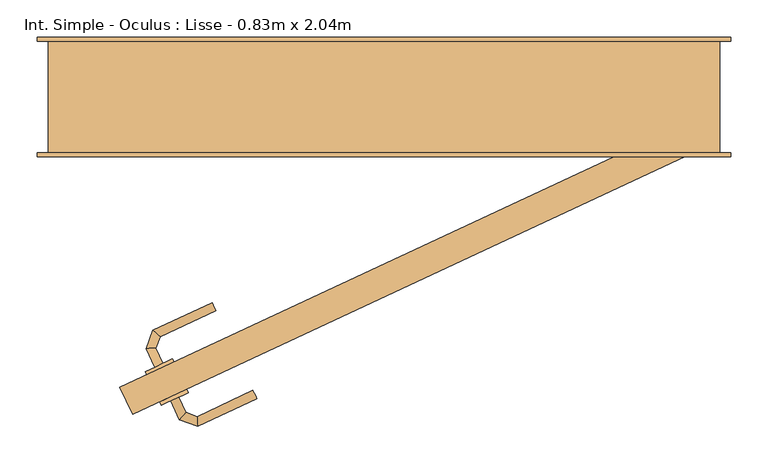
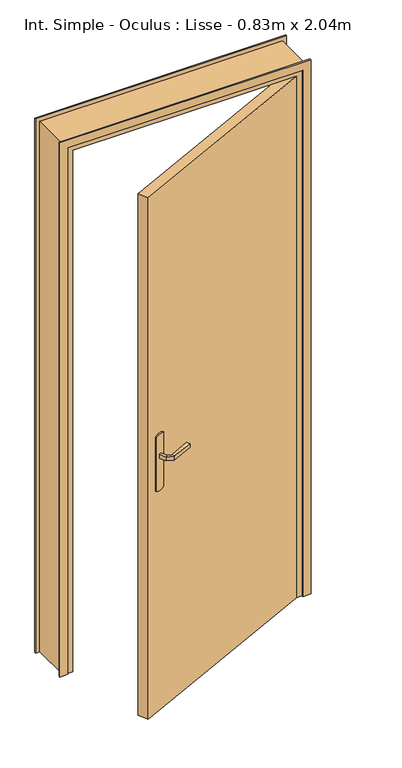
"""IFC4 building model written with IfcOpenShell, lengths in millimetres: door geometry, Int. Simple - Oculus : Lisse - 0.83m x 2.04m."""

from ifc_helpers import new_model, si_unit, point, frame, frame_2d, origin, origin_with_axes, place, context, project, spatial, polyline, circle_curve, ellipse_curve, trimmed, segment, composite_curve, outline, extrude, faceted_brep, source, transform, mapped, element, save
from ifc_brep_helpers import plane_surface, cylinder_surface, advanced_brep


def int_simple_oculus_lisse_0_83m_x_2_04m_3713ebb9(model_context):
    return source(origin(), model_context, "Body", "SolidModel", [
        extrude(outline(composite_curve([segment(trimmed(circle_curve(frame_2d((0.0, -40.0)), 40.0), [point((-34.6410162, -60.0000001))], [point((-34.6410162, -20.0))], False, "CARTESIAN"), True, "CONTINUOUS"), segment(polyline([(-34.6410162, -20.0), (175.3589838, -20.0)]), True, "CONTINUOUS"), segment(trimmed(circle_curve(frame_2d((140.7179676, -40.0)), 40.0), [point((175.3589838, -20.0))], [point((175.3589838, -60.0000001))], False, "CARTESIAN"), True, "CONTINUOUS"), segment(polyline([(175.3589838, -60.0000001), (-34.6410162, -60.0000001)]), True, "CONTINUOUS")], self_intersect=False)), frame((-279.4915932, -388.04287, 904.6410162), z_axis=(-0.42261826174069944, 0.90630778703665, 0.0), x_axis=(0.0, 0.0, 1.0)), (0.0, 0.0, 1.0), 5.0),
        extrude(outline(composite_curve([segment(trimmed(circle_curve(frame_2d((0.0, -40.0)), 40.0), [point((34.6410162, -19.9999999))], [point((34.6410162, -60.0))], False, "CARTESIAN"), True, "CONTINUOUS"), segment(polyline([(34.6410162, -60.0), (-175.3589838, -60.0)]), True, "CONTINUOUS"), segment(trimmed(circle_curve(frame_2d((-140.7179676, -40.0)), 40.0), [point((-175.3589838, -60.0))], [point((-175.3589838, -19.9999999))], False, "CARTESIAN"), True, "CONTINUOUS"), segment(polyline([(-175.3589838, -19.9999999), (34.6410162, -19.9999999)]), True, "CONTINUOUS")], self_intersect=False)), frame((-298.509415, -347.2590196, 1045.3589838), z_axis=(-0.42261826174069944, 0.90630778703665, 0.0), x_axis=(0.0, 0.0, 1.0)), (0.0, 0.0, 1.0), 5.0),
        advanced_brep(
        [(-321.1817514, -407.48331, 1007.0), (-310.306058, -402.4118909, 1007.0), (-310.306058, -402.4118909, 993.0), (-321.1817514, -407.48331, 993.0), (-309.4959547, -432.543582, 1007.0), (-300.7209119, -422.9673031, 1007.0), (-300.7209119, -422.9673031, 993.0), (-309.4959547, -432.543582, 993.0), (-285.0740017, -441.432446, 1007.0), (-285.6405611, -428.4561019, 1007.0), (-285.6405611, -428.4561019, 993.0), (-285.0740017, -441.432446, 993.0), (-205.6438906, -404.3935769, 1007.0), (-205.6438906, -404.3935769, 993.0), (-210.7153098, -393.5178834, 993.0), (-210.7153098, -393.5178834, 1007.0)],
        [
            (0, 1, circle_curve(frame((-315.7439047, -404.9476005, 986.9542278), z_axis=(-0.42261826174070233, 0.9063077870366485, 0.0), x_axis=(0.9063077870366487, 0.4226182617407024, 0.0)), 20.9244589)),
            (1, 2),
            (2, 3, circle_curve(frame((-315.7439047, -404.9476005, 1013.0457722), z_axis=(-0.42261826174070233, 0.9063077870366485, 0.0), x_axis=(0.9063077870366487, 0.4226182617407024, 0.0)), 20.9244589)),
            (3, 0),
            (0, 4),
            (4, 5, ellipse_curve(frame((-305.1084333, -427.7554426, 986.9542278), z_axis=(-0.7372773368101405, 0.6755902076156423, 0.0), x_axis=(0.6755902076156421, 0.7372773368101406, 0.0)), 22.6484711, 20.9244589)),
            (5, 1),
            (5, 6),
            (6, 2),
            (6, 7, ellipse_curve(frame((-305.1084333, -427.7554426, 1013.0457722), z_axis=(-0.7372773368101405, 0.6755902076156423, 0.0), x_axis=(0.6755902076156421, 0.7372773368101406, 0.0)), 22.6484711, 20.9244589)),
            (7, 3),
            (7, 4),
            (4, 8),
            (8, 9, ellipse_curve(frame((-285.3572814, -434.9442739, 986.9542278), z_axis=(-0.9990482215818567, -0.043619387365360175, 0.0), x_axis=(-0.043619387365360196, 0.9990482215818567, 0.0)), 22.6484711, 20.9244589)),
            (9, 5),
            (9, 10),
            (10, 6),
            (10, 11, ellipse_curve(frame((-285.3572814, -434.9442739, 1013.0457722), z_axis=(-0.9990482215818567, -0.043619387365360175, 0.0), x_axis=(-0.043619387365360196, 0.9990482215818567, 0.0)), 22.6484711, 20.9244589)),
            (11, 7),
            (11, 8),
            (12, 13),
            (13, 14, circle_curve(frame((-208.1796002, -398.9557302, 1013.0457722), z_axis=(0.9063077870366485, 0.4226182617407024, 0.0), x_axis=(-0.4226182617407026, 0.9063077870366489, 0.0)), 20.9244589)),
            (14, 15),
            (15, 12, circle_curve(frame((-208.1796002, -398.9557302, 986.9542278), z_axis=(0.9063077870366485, 0.4226182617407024, 0.0), x_axis=(-0.4226182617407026, 0.9063077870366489, 0.0)), 20.9244589)),
            (8, 12),
            (15, 9),
            (14, 10),
            (13, 11),
        ],
        [
            plane_surface(frame((-324.0996496, -408.8439483, 1000.0), z_axis=(-0.4226182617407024, 0.9063077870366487, 0.0), x_axis=(0.0, 0.0, -1.0))),
            cylinder_surface(frame((-315.7439047, -404.9476005, 986.9542278), z_axis=(-0.4226182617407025, 0.9063077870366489, 0.0), x_axis=(0.9063077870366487, 0.4226182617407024, 0.0)), 20.9244589),
            plane_surface(frame((-310.306058, -402.4118909, 1007.0), z_axis=(0.9063077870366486, 0.4226182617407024, 0.0), x_axis=(0.4226182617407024, -0.9063077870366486, 0.0))),
            cylinder_surface(frame((-315.7439047, -404.9476005, 1013.0457722), z_axis=(-0.4226182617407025, 0.9063077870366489, 0.0), x_axis=(0.9063077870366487, 0.4226182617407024, 0.0)), 20.9244589),
            plane_surface(frame((-321.1817514, -407.48331, 993.0), z_axis=(-0.9063077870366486, -0.4226182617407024, 0.0), x_axis=(0.4226182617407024, -0.9063077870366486, 0.0))),
            cylinder_surface(frame((-305.1084333, -427.7554426, 986.9542278), z_axis=(-0.939692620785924, 0.3420201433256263, 0.0), x_axis=(0.34202014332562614, 0.939692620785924, 0.0)), 20.9244589),
            plane_surface(frame((-300.7209119, -422.9673031, 1007.0), z_axis=(0.3420201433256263, 0.939692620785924, 0.0), x_axis=(0.939692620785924, -0.3420201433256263, 0.0))),
            cylinder_surface(frame((-305.1084333, -427.7554426, 1013.0457722), z_axis=(-0.939692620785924, 0.3420201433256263, 0.0), x_axis=(0.34202014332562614, 0.939692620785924, 0.0)), 20.9244589),
            plane_surface(frame((-309.4959547, -432.543582, 993.0), z_axis=(-0.3420201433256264, -0.9396926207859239, 0.0), x_axis=(0.9396926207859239, -0.3420201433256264, 0.0))),
            plane_surface(frame((-208.1796002, -398.9557302, 990.7804555), z_axis=(0.9063077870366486, 0.4226182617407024, 0.0), x_axis=(-0.4226182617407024, 0.9063077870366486, 0.0))),
            cylinder_surface(frame((-285.3572814, -434.9442739, 986.9542278), z_axis=(-0.9063077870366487, -0.4226182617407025, 0.0), x_axis=(-0.4226182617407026, 0.9063077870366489, 0.0)), 20.9244589),
            plane_surface(frame((-285.6405611, -428.4561019, 1007.0), z_axis=(-0.4226182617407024, 0.9063077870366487, 0.0), x_axis=(0.9063077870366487, 0.4226182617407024, 0.0))),
            cylinder_surface(frame((-285.3572814, -434.9442739, 1013.0457722), z_axis=(-0.9063077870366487, -0.4226182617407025, 0.0), x_axis=(-0.4226182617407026, 0.9063077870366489, 0.0)), 20.9244589),
            plane_surface(frame((-285.0740017, -441.432446, 993.0), z_axis=(0.4226182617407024, -0.9063077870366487, 0.0), x_axis=(0.9063077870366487, 0.4226182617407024, 0.0))),
        ],
        [
            (0, [[1, 2, 3, 4]]),
            (1, [[-1, 5, 6, 7]]),
            (2, [[-2, -7, 8, 9]]),
            (3, [[-3, -9, 10, 11]]),
            (4, [[-4, -11, 12, -5]]),
            (5, [[-6, 13, 14, 15]]),
            (6, [[-8, -15, 16, 17]]),
            (7, [[-10, -17, 18, 19]]),
            (8, [[-12, -19, 20, -13]]),
            (9, [[21, 22, 23, 24]]),
            (10, [[-14, 25, -24, 26]]),
            (11, [[-16, -26, -23, 27]]),
            (12, [[-18, -27, -22, 28]]),
            (13, [[-20, -28, -21, -25]]),
        ],
    ),
        advanced_brep(
        [(-331.4369711, -357.0965016, 993.0), (-331.4369711, -357.0965016, 1007.0), (-342.3126645, -362.1679207, 1007.0), (-342.3126645, -362.1679207, 993.0), (-340.9396291, -336.7179856, 993.0), (-340.9396291, -336.7179856, 1007.0), (-353.9159732, -337.284545, 1007.0), (-353.9159732, -337.284545, 993.0), (-335.3843188, -321.454896, 993.0), (-335.3843188, -321.454896, 1007.0), (-344.9605977, -312.6798532, 1007.0), (-344.9605977, -312.6798532, 993.0), (-260.5590927, -286.5633201, 993.0), (-265.6305118, -275.6876266, 993.0), (-265.6305118, -275.6876266, 1007.0), (-260.5590927, -286.5633201, 1007.0)],
        [
            (0, 1),
            (1, 2, circle_curve(frame((-336.8748178, -359.6322111, 986.9542278), z_axis=(0.42261826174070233, -0.9063077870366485, 0.0), x_axis=(-0.9063077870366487, -0.4226182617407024, 0.0)), 20.9244589)),
            (2, 3),
            (3, 0, circle_curve(frame((-336.8748178, -359.6322111, 1013.0457722), z_axis=(0.42261826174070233, -0.9063077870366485, 0.0), x_axis=(-0.9063077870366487, -0.4226182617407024, 0.0)), 20.9244589)),
            (0, 4),
            (4, 5),
            (5, 1),
            (5, 6, ellipse_curve(frame((-347.4278011, -337.0012653, 986.9542278), z_axis=(0.04361938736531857, -0.9990482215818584, 0.0), x_axis=(0.9990482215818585, 0.04361938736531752, 0.0)), 22.6484711, 20.9244589)),
            (6, 2),
            (6, 7),
            (7, 3),
            (7, 4, ellipse_curve(frame((-347.4278011, -337.0012653, 1013.0457722), z_axis=(0.04361938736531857, -0.9990482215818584, 0.0), x_axis=(0.9990482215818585, 0.04361938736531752, 0.0)), 22.6484711, 20.9244589)),
            (4, 8),
            (8, 9),
            (9, 5),
            (9, 10, ellipse_curve(frame((-340.1724583, -317.0673746, 986.9542278), z_axis=(-0.6755902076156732, -0.7372773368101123, 0.0), x_axis=(0.7372773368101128, -0.6755902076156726, 0.0)), 22.6484711, 20.9244589)),
            (10, 6),
            (10, 11),
            (11, 7),
            (11, 8, ellipse_curve(frame((-340.1724583, -317.0673746, 1013.0457722), z_axis=(-0.6755902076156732, -0.7372773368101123, 0.0), x_axis=(0.7372773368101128, -0.6755902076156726, 0.0)), 22.6484711, 20.9244589)),
            (12, 13, circle_curve(frame((-263.0948023, -281.1254733, 1013.0457722), z_axis=(0.9063077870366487, 0.4226182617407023, 0.0), x_axis=(-0.4226182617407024, 0.9063077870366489, 0.0)), 20.9244589)),
            (13, 14),
            (14, 15, circle_curve(frame((-263.0948023, -281.1254733, 986.9542278), z_axis=(0.9063077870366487, 0.4226182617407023, 0.0), x_axis=(-0.4226182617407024, 0.9063077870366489, 0.0)), 20.9244589)),
            (15, 12),
            (8, 12),
            (15, 9),
            (14, 10),
            (13, 11),
        ],
        [
            plane_surface(frame((-345.2305627, -363.528559, 1000.0), z_axis=(0.4226182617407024, -0.9063077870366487, 0.0), x_axis=(0.0, 0.0, 1.0))),
            plane_surface(frame((-331.4369711, -357.0965016, 993.0), z_axis=(0.9063077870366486, 0.4226182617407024, 0.0), x_axis=(-0.4226182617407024, 0.9063077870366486, 0.0))),
            cylinder_surface(frame((-336.8748178, -359.6322111, 986.9542278), z_axis=(0.4226182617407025, -0.9063077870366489, 0.0), x_axis=(-0.9063077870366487, -0.4226182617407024, 0.0)), 20.9244589),
            plane_surface(frame((-342.3126645, -362.1679207, 1007.0), z_axis=(-0.9063077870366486, -0.4226182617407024, 0.0), x_axis=(-0.4226182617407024, 0.9063077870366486, 0.0))),
            cylinder_surface(frame((-336.8748178, -359.6322111, 1013.0457722), z_axis=(0.4226182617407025, -0.9063077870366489, 0.0), x_axis=(-0.9063077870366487, -0.4226182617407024, 0.0)), 20.9244589),
            plane_surface(frame((-340.9396291, -336.7179856, 993.0), z_axis=(0.9396926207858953, -0.3420201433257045, 0.0), x_axis=(0.3420201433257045, 0.9396926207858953, 0.0))),
            cylinder_surface(frame((-347.4278011, -337.0012653, 986.9542278), z_axis=(-0.3420201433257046, -0.9396926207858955, 0.0), x_axis=(-0.9396926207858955, 0.34202014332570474, 0.0)), 20.9244589),
            plane_surface(frame((-353.9159732, -337.284545, 1007.0), z_axis=(-0.9396926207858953, 0.3420201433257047, 0.0), x_axis=(0.3420201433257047, 0.9396926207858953, 0.0))),
            cylinder_surface(frame((-347.4278011, -337.0012653, 1013.0457722), z_axis=(-0.3420201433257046, -0.9396926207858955, 0.0), x_axis=(-0.9396926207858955, 0.34202014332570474, 0.0)), 20.9244589),
            plane_surface(frame((-263.0948023, -281.1254733, 990.7804555), z_axis=(0.9063077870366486, 0.4226182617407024, 0.0), x_axis=(-0.4226182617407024, 0.9063077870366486, 0.0))),
            plane_surface(frame((-335.3843188, -321.454896, 993.0), z_axis=(0.4226182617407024, -0.9063077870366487, 0.0), x_axis=(0.9063077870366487, 0.4226182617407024, 0.0))),
            cylinder_surface(frame((-340.1724583, -317.0673746, 986.9542278), z_axis=(-0.9063077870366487, -0.4226182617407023, 0.0), x_axis=(-0.4226182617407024, 0.9063077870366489, 0.0)), 20.9244589),
            plane_surface(frame((-344.9605977, -312.6798532, 1007.0), z_axis=(-0.4226182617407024, 0.9063077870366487, 0.0), x_axis=(0.9063077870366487, 0.4226182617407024, 0.0))),
            cylinder_surface(frame((-340.1724583, -317.0673746, 1013.0457722), z_axis=(-0.9063077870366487, -0.4226182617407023, 0.0), x_axis=(-0.4226182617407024, 0.9063077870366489, 0.0)), 20.9244589),
        ],
        [
            (0, [[1, 2, 3, 4]]),
            (1, [[-1, 5, 6, 7]]),
            (2, [[-2, -7, 8, 9]]),
            (3, [[-3, -9, 10, 11]]),
            (4, [[-4, -11, 12, -5]]),
            (5, [[-6, 13, 14, 15]]),
            (6, [[-8, -15, 16, 17]]),
            (7, [[-10, -17, 18, 19]]),
            (8, [[-12, -19, 20, -13]]),
            (9, [[21, 22, 23, 24]]),
            (10, [[-14, 25, -24, 26]]),
            (11, [[-16, -26, -23, 27]]),
            (12, [[-18, -27, -22, 28]]),
            (13, [[-20, -28, -21, -25]]),
        ],
    ),
        extrude(outline(polyline([(-389.1401937, -389.5208458), (363.0952695, -38.7476885), (380.0, -75.0), (-372.2354632, -425.7731572), (-389.1401937, -389.5208458)])), origin_with_axes(), (0.0, 0.0, 1.0), 2040.0),
        faceted_brep([(-485.0, -75.0, 0.0), (-485.0, 75.0, 0.0), (-435.0, 75.0, 0.0), (-435.0, -35.0, 0.0), (-450.0, -35.0, 0.0), (-450.0, -75.0, 0.0), (-485.0, -75.0, 2075.0), (-485.0, 75.0, 2075.0), (415.0, 75.0, 2075.0), (415.0, 75.0, 0.0), (365.0, 75.0, 0.0), (365.0, 75.0, 2025.0), (-435.0, 75.0, 2025.0), (-435.0, -35.0, 2025.0), (365.0, -35.0, 2025.0), (365.0, -35.0, 0.0), (380.0, -35.0, 0.0), (380.0, -35.0, 2040.0), (-450.0, -35.0, 2040.0), (-450.0, -75.0, 2040.0), (380.0, -75.0, 2040.0), (380.0, -75.0, 0.0), (415.0, -75.0, 0.0), (415.0, -75.0, 2075.0)], [[[0, 1, 2, 3, 4, 5]], [[1, 0, 6, 7]], [[2, 1, 7, 8, 9, 10, 11, 12]], [[3, 2, 12, 13]], [[4, 3, 13, 14, 15, 16, 17, 18]], [[5, 4, 18, 19]], [[0, 5, 19, 20, 21, 22, 23, 6]], [[7, 6, 23, 8]], [[13, 12, 11, 14]], [[19, 18, 17, 20]], [[22, 21, 16, 15, 10, 9]], [[8, 23, 22, 9]], [[14, 11, 10, 15]], [[20, 17, 16, 21]]]),
        extrude(outline(polyline([(0.0, -500.0), (0.0, -470.0), (2060.0, -470.0), (2060.0, 400.0), (0.0, 400.0), (0.0, 430.0), (2090.0, 430.0), (2090.0, -500.0), (0.0, -500.0)])), frame((0.0, -80.0, 0.0), z_axis=(0.0, 1.0, 0.0), x_axis=(0.0, 0.0, 1.0)), (0.0, 0.0, 1.0), 5.0),
        extrude(outline(polyline([(0.0, -500.0), (0.0, -470.0), (2060.0, -470.0), (2060.0, 400.0), (0.0, 400.0), (0.0, 430.0), (2090.0, 430.0), (2090.0, -500.0), (0.0, -500.0)])), frame((0.0, 75.0, 0.0), z_axis=(0.0, 1.0, 0.0), x_axis=(0.0, 0.0, 1.0)), (0.0, 0.0, 1.0), 5.0),
    ])


if __name__ == "__main__":
    model = new_model("IFC4")
    model_context = context("Model", 3, world=origin())
    ifc_project = project(units=[si_unit("LENGTHUNIT", "METRE", prefix="MILLI")], contexts=[model_context])
    site = spatial("IfcSite", under=ifc_project)
    building = spatial("IfcBuilding", under=site)
    placement = place(None, origin())
    int_simple_oculus_lisse_0_83m_x_2_04m_shape = int_simple_oculus_lisse_0_83m_x_2_04m_3713ebb9(model_context)
    element("IfcDoor", 1, ObjectType="Int. Simple - Oculus : Lisse - 0.83m x 2.04m", at=placement, inside=building, context=model_context, shape_type="MappedRepresentation", body=[
        mapped(int_simple_oculus_lisse_0_83m_x_2_04m_shape, transform((0.0, 0.0, 0.0), x_axis=(1.0, 0.0, 0.0), y_axis=(0.0, 1.0, 0.0), z_axis=(0.0, 0.0, 1.0))),
    ])
    save(model, "model.ifc")
